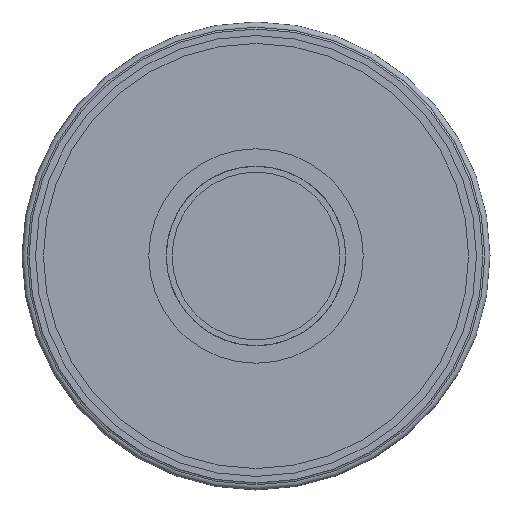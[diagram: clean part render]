
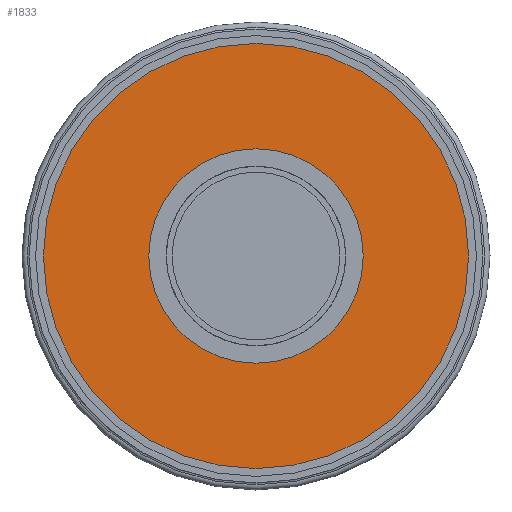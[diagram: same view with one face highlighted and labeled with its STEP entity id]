
A CAD part, front view. The second image highlights one B-rep face of the part: STEP entity #1833.
In plain terms, the highlighted planar face has unit normal (0, -1, 0).
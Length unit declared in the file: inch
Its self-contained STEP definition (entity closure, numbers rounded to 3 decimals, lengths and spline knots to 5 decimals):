
#660=PLANE('',#2255);
#720=FACE_OUTER_BOUND('',#807,.T.);
#807=EDGE_LOOP('',(#1475));
#1134=CIRCLE('',#2253,28.25);
#1189=VERTEX_POINT('',#3378);
#1302=EDGE_CURVE('',#1189,#1189,#1134,.T.);
#1475=ORIENTED_EDGE('',*,*,#1302,.F.);
#1833=ADVANCED_FACE('',(#720),#660,.F.);
#2253=AXIS2_PLACEMENT_3D('',#3380,#2595,#2596);
#2255=AXIS2_PLACEMENT_3D('',#3382,#2599,#2600);
#2595=DIRECTION('center_axis',(0.,1.,0.));
#2596=DIRECTION('ref_axis',(-1.,0.,0.));
#2599=DIRECTION('center_axis',(0.,1.,0.));
#2600=DIRECTION('ref_axis',(0.,0.,1.));
#3378=CARTESIAN_POINT('',(28.25,0.,0.));
#3380=CARTESIAN_POINT('Origin',(0.,0.,0.));
#3382=CARTESIAN_POINT('Origin',(0.,0.,0.));
